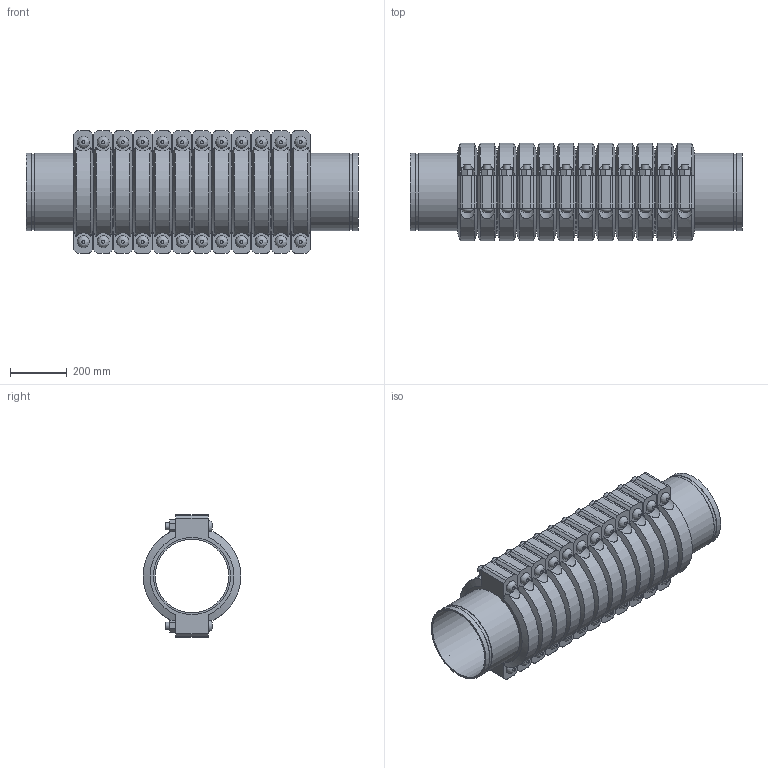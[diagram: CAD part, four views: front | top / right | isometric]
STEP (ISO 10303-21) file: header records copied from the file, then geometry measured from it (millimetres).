
FILE_DESCRIPTION(/* description */ ('VIC EXPANSION JOINT 12 COUPLINGS COMPRESSED STYLE 155 (OGS)','CAx-IF Rec.Pracs.---Representation and Presentation of Product Manufacturing Information (PMI)---4.0---2014-10-13'),/* implementation_level */ '2;1');
FILE_NAME(/* name */ 'C:\Users\kkamble\AppData\Roaming\Autodesk\ApplicationPlugins\Victaulic.Temp\A100\Victaulic_IPS_Expansion Joint_Compressed_12 Couplings_Style 155 (OGS)_10 (250).stp',/* time_stamp */ '2021-06-27T00:22:00+02:00',/* author */ ('kkamble'),/* organization */ ('Victaulic'),/* preprocessor_version */ 'ST-DEVELOPER v17.2',/* originating_system */ 'Autodesk Inventor 2019',/* authorisation */ '');
FILE_SCHEMA (('AP242_MANAGED_MODEL_BASED_3D_ENGINEERING_MIM_LF { 1 0 10303 442 1 1 4 }'));
Length unit declared in the file: inch
Products named in the file (4): 155-10.0; Nipple-10.0; Nipple-10.0_1; 077-12 Coup-10.0
Assembly tree (25 placements, depth 2):
  155-10.0
    Nipple-10.0  x2
    Nipple-10.0_1  x11
    077-12 Coup-10.0  x12
Bounding box: 1174.75 x 344.9 x 435.1 mm (x, y, z)
Volume: 40625829 mm3; surface area: 5553715.9 mm2
Topology: 25 solids, 49 shells, 888 faces, 2130 edges, 1488 vertices
Faces by surface type: plane 510, cylinder 306, cone 48, bspline 24
Full cylindrical faces by diameter (mm): 25.4 x48, 27.432 x24, 260.35 x13, 264.16 x12, 268.275 x26, 273.05 x63
Entity records: 3194 total; most frequent: CARTESIAN_POINT 689, DIRECTION 505, ORIENTED_EDGE 410, AXIS2_PLACEMENT_3D 208, EDGE_CURVE 205, VERTEX_POINT 146, EDGE_LOOP 111, CIRCLE 96
